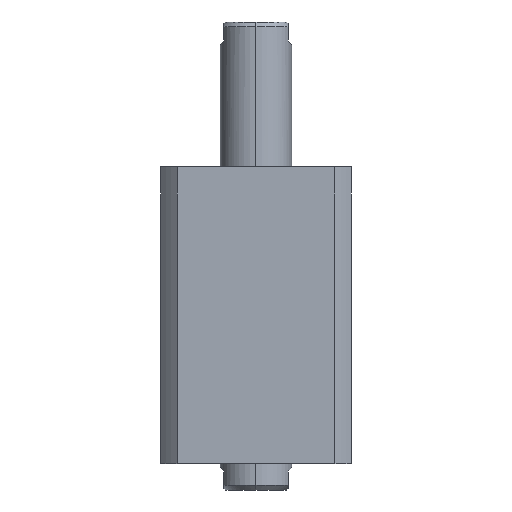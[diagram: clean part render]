
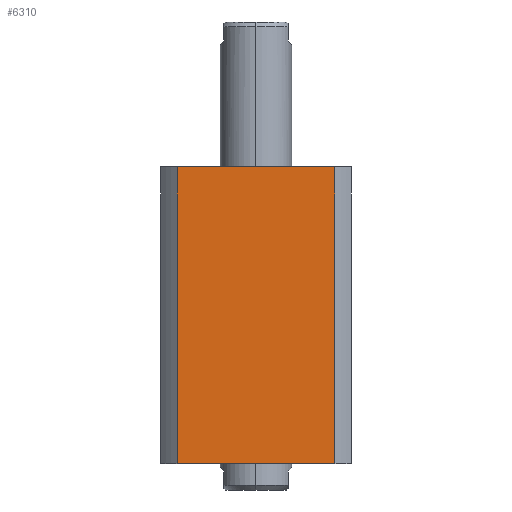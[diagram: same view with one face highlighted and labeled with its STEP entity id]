
A CAD part, left-side view. The second image highlights one B-rep face of the part: STEP entity #6310.
In plain terms, the highlighted planar face has unit normal (-1, 0, 0).
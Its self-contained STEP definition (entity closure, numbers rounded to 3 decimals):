
#123 = EDGE_LOOP ( 'NONE', ( #7137, #7892, #3597, #9474 ) ) ;
#304 = DIRECTION ( 'NONE',  ( 1., 0., 0. ) ) ;
#717 = VECTOR ( 'NONE', #1687, 1000. ) ;
#820 = DIRECTION ( 'NONE',  ( 0., -1., 0. ) ) ;
#1015 = CARTESIAN_POINT ( 'NONE',  ( -40., 33.226, -62.5 ) ) ;
#1687 = DIRECTION ( 'NONE',  ( 0., 0., -1. ) ) ;
#1984 = LINE ( 'NONE', #1015, #5497 ) ;
#2101 = CARTESIAN_POINT ( 'NONE',  ( -40., -33.226, -62.5 ) ) ;
#2208 = CARTESIAN_POINT ( 'NONE',  ( -40., 33.226, -62.5 ) ) ;
#2576 = VECTOR ( 'NONE', #4727, 1000. ) ;
#2825 = VERTEX_POINT ( 'NONE', #2208 ) ;
#2869 = VERTEX_POINT ( 'NONE', #9133 ) ;
#3102 = CARTESIAN_POINT ( 'NONE',  ( -40., 33.226, 62.5 ) ) ;
#3597 = ORIENTED_EDGE ( 'NONE', *, *, #7049, .F. ) ;
#4116 = VECTOR ( 'NONE', #820, 1000. ) ;
#4164 = DIRECTION ( 'NONE',  ( 0., 1., 0. ) ) ;
#4198 = EDGE_CURVE ( 'NONE', #6157, #2825, #6984, .T. ) ;
#4567 = CARTESIAN_POINT ( 'NONE',  ( -40., 33.226, 62.5 ) ) ;
#4587 = VERTEX_POINT ( 'NONE', #2101 ) ;
#4727 = DIRECTION ( 'NONE',  ( 0., 0., -1. ) ) ;
#5458 = CARTESIAN_POINT ( 'NONE',  ( -40., -33.226, 62.5 ) ) ;
#5497 = VECTOR ( 'NONE', #6287, 1000. ) ;
#5664 = FACE_OUTER_BOUND ( 'NONE', #123, .T. ) ;
#6157 = VERTEX_POINT ( 'NONE', #3102 ) ;
#6287 = DIRECTION ( 'NONE',  ( 0., -1., 0. ) ) ;
#6310 = ADVANCED_FACE ( 'NONE', ( #5664 ), #6466, .F. ) ;
#6466 = PLANE ( 'NONE',  #8218 ) ;
#6951 = LINE ( 'NONE', #4567, #4116 ) ;
#6984 = LINE ( 'NONE', #9277, #717 ) ;
#7049 = EDGE_CURVE ( 'NONE', #6157, #2869, #6951, .T. ) ;
#7137 = ORIENTED_EDGE ( 'NONE', *, *, #9397, .T. ) ;
#7892 = ORIENTED_EDGE ( 'NONE', *, *, #9388, .F. ) ;
#8218 = AXIS2_PLACEMENT_3D ( 'NONE', #8691, #304, #4164 ) ;
#8347 = LINE ( 'NONE', #5458, #2576 ) ;
#8691 = CARTESIAN_POINT ( 'NONE',  ( -40., 33.226, 62.5 ) ) ;
#9133 = CARTESIAN_POINT ( 'NONE',  ( -40., -33.226, 62.5 ) ) ;
#9277 = CARTESIAN_POINT ( 'NONE',  ( -40., 33.226, 62.5 ) ) ;
#9388 = EDGE_CURVE ( 'NONE', #2869, #4587, #8347, .T. ) ;
#9397 = EDGE_CURVE ( 'NONE', #2825, #4587, #1984, .T. ) ;
#9474 = ORIENTED_EDGE ( 'NONE', *, *, #4198, .T. ) ;
